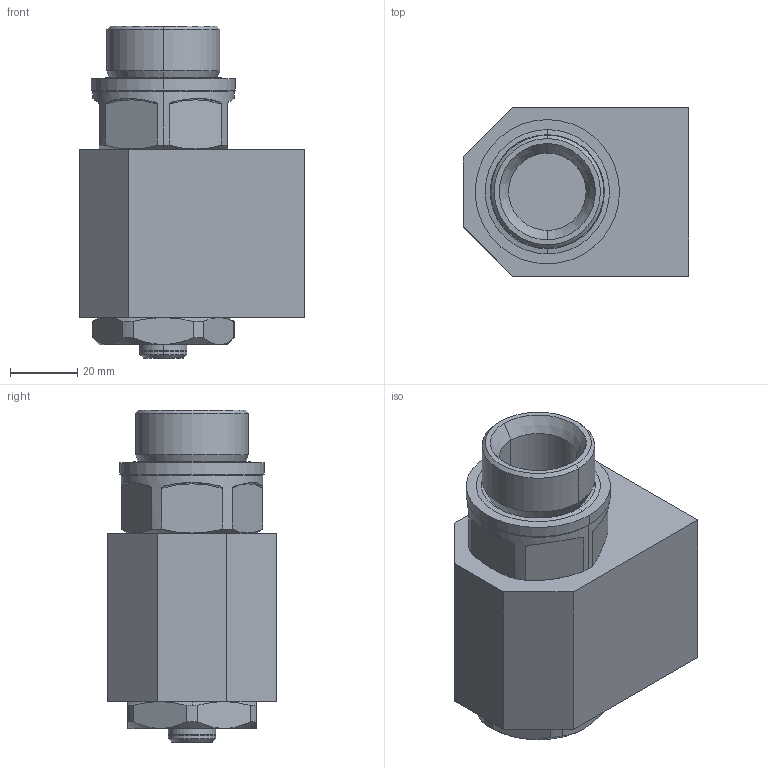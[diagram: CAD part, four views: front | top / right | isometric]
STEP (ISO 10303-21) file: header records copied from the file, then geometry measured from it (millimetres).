
FILE_DESCRIPTION (( 'STEP AP203' ), '1' );
FILE_NAME ('S-V2417.STEP', '2018-05-28T09:30:35', ( '' ), ( '' ), 'SwSTEP 2.0', 'SolidWorks 2018', '' );
FILE_SCHEMA (( 'CONFIG_CONTROL_DESIGN' ));
Length unit declared in the file: millimetre
Products named in the file (1): S-V2417
Bounding box: 67 x 50 x 98.5 mm (x, y, z)
Volume: 154194.6 mm3; surface area: 41931.5 mm2
Topology: 1 solids, 3 shells, 177 faces, 403 edges, 243 vertices
Faces by surface type: cylinder 56, cone 53, plane 49, torus 19
Entity records: 5536 total; most frequent: CARTESIAN_POINT 1454, DIRECTION 892, ORIENTED_EDGE 802, EDGE_CURVE 401, AXIS2_PLACEMENT_3D 376, VERTEX_POINT 243, CIRCLE 198, EDGE_LOOP 194
